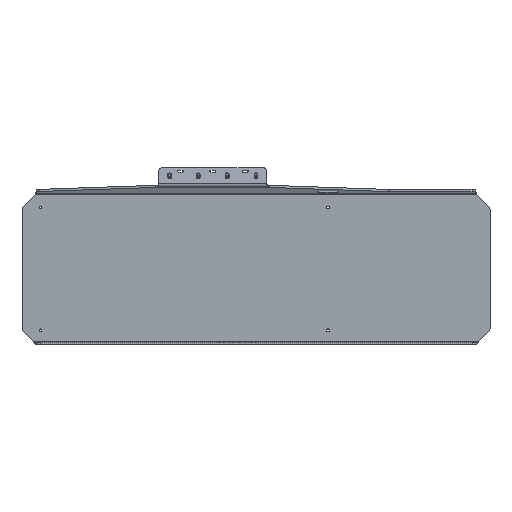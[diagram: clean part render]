
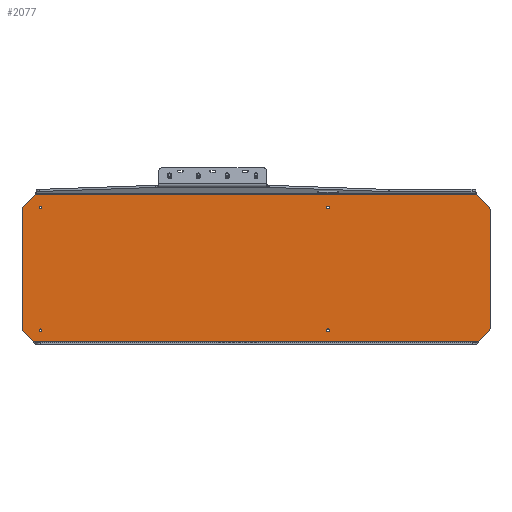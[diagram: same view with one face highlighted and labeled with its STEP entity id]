
A CAD part, top view. The second image highlights one B-rep face of the part: STEP entity #2077.
In plain terms, the highlighted planar face has unit normal (0, 0, 1).
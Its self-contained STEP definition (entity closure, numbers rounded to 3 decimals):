
#88=FACE_BOUND('',#344,.T.);
#89=FACE_BOUND('',#345,.T.);
#90=FACE_BOUND('',#346,.T.);
#91=FACE_BOUND('',#347,.T.);
#122=PLANE('',#2320);
#212=FACE_OUTER_BOUND('',#343,.T.);
#343=EDGE_LOOP('',(#1734,#1735,#1736,#1737,#1738,#1739,#1740,#1741,#1742,
#1743,#1744,#1745));
#344=EDGE_LOOP('',(#1746,#1747));
#345=EDGE_LOOP('',(#1748,#1749));
#346=EDGE_LOOP('',(#1750,#1751));
#347=EDGE_LOOP('',(#1752,#1753));
#520=LINE('',#3485,#704);
#525=LINE('',#3499,#709);
#526=LINE('',#3501,#710);
#527=LINE('',#3502,#711);
#528=LINE('',#3504,#712);
#529=LINE('',#3508,#713);
#530=LINE('',#3510,#714);
#531=LINE('',#3511,#715);
#704=VECTOR('',#2789,10.);
#709=VECTOR('',#2804,10.);
#710=VECTOR('',#2805,10.);
#711=VECTOR('',#2806,10.);
#712=VECTOR('',#2807,10.);
#713=VECTOR('',#2810,10.);
#714=VECTOR('',#2811,10.);
#715=VECTOR('',#2812,10.);
#764=CIRCLE('',#2182,1.9);
#765=CIRCLE('',#2183,1.9);
#767=CIRCLE('',#2186,1.9);
#768=CIRCLE('',#2187,1.9);
#770=CIRCLE('',#2190,1.9);
#771=CIRCLE('',#2191,1.9);
#773=CIRCLE('',#2194,1.9);
#774=CIRCLE('',#2195,1.9);
#834=CIRCLE('',#2309,5.);
#839=CIRCLE('',#2317,5.);
#840=CIRCLE('',#2319,5.);
#841=CIRCLE('',#2321,5.);
#863=VERTEX_POINT('',#3002);
#864=VERTEX_POINT('',#3003);
#866=VERTEX_POINT('',#3010);
#867=VERTEX_POINT('',#3011);
#869=VERTEX_POINT('',#3018);
#870=VERTEX_POINT('',#3019);
#872=VERTEX_POINT('',#3026);
#873=VERTEX_POINT('',#3027);
#993=VERTEX_POINT('',#3453);
#994=VERTEX_POINT('',#3454);
#1007=VERTEX_POINT('',#3484);
#1008=VERTEX_POINT('',#3488);
#1009=VERTEX_POINT('',#3492);
#1010=VERTEX_POINT('',#3493);
#1011=VERTEX_POINT('',#3498);
#1012=VERTEX_POINT('',#3500);
#1013=VERTEX_POINT('',#3503);
#1014=VERTEX_POINT('',#3505);
#1015=VERTEX_POINT('',#3507);
#1016=VERTEX_POINT('',#3509);
#1060=EDGE_CURVE('',#863,#864,#764,.T.);
#1061=EDGE_CURVE('',#864,#863,#765,.T.);
#1064=EDGE_CURVE('',#866,#867,#767,.T.);
#1065=EDGE_CURVE('',#867,#866,#768,.T.);
#1068=EDGE_CURVE('',#869,#870,#770,.T.);
#1069=EDGE_CURVE('',#870,#869,#771,.T.);
#1072=EDGE_CURVE('',#872,#873,#773,.T.);
#1073=EDGE_CURVE('',#873,#872,#774,.T.);
#1248=EDGE_CURVE('',#993,#994,#834,.T.);
#1263=EDGE_CURVE('',#994,#1007,#520,.T.);
#1265=EDGE_CURVE('',#1007,#1008,#839,.T.);
#1267=EDGE_CURVE('',#1009,#1010,#840,.T.);
#1270=EDGE_CURVE('',#1011,#993,#525,.T.);
#1271=EDGE_CURVE('',#1011,#1012,#526,.T.);
#1272=EDGE_CURVE('',#1010,#1012,#527,.T.);
#1273=EDGE_CURVE('',#1013,#1009,#528,.T.);
#1274=EDGE_CURVE('',#1014,#1013,#841,.T.);
#1275=EDGE_CURVE('',#1015,#1014,#529,.T.);
#1276=EDGE_CURVE('',#1015,#1016,#530,.T.);
#1277=EDGE_CURVE('',#1008,#1016,#531,.T.);
#1734=ORIENTED_EDGE('',*,*,#1248,.F.);
#1735=ORIENTED_EDGE('',*,*,#1270,.F.);
#1736=ORIENTED_EDGE('',*,*,#1271,.T.);
#1737=ORIENTED_EDGE('',*,*,#1272,.F.);
#1738=ORIENTED_EDGE('',*,*,#1267,.F.);
#1739=ORIENTED_EDGE('',*,*,#1273,.F.);
#1740=ORIENTED_EDGE('',*,*,#1274,.F.);
#1741=ORIENTED_EDGE('',*,*,#1275,.F.);
#1742=ORIENTED_EDGE('',*,*,#1276,.T.);
#1743=ORIENTED_EDGE('',*,*,#1277,.F.);
#1744=ORIENTED_EDGE('',*,*,#1265,.F.);
#1745=ORIENTED_EDGE('',*,*,#1263,.F.);
#1746=ORIENTED_EDGE('',*,*,#1060,.T.);
#1747=ORIENTED_EDGE('',*,*,#1061,.T.);
#1748=ORIENTED_EDGE('',*,*,#1064,.T.);
#1749=ORIENTED_EDGE('',*,*,#1065,.T.);
#1750=ORIENTED_EDGE('',*,*,#1068,.T.);
#1751=ORIENTED_EDGE('',*,*,#1069,.T.);
#1752=ORIENTED_EDGE('',*,*,#1072,.T.);
#1753=ORIENTED_EDGE('',*,*,#1073,.T.);
#2077=ADVANCED_FACE('',(#212,#88,#89,#90,#91),#122,.T.);
#2182=AXIS2_PLACEMENT_3D('',#3004,#2397,#2398);
#2183=AXIS2_PLACEMENT_3D('',#3005,#2399,#2400);
#2186=AXIS2_PLACEMENT_3D('',#3012,#2406,#2407);
#2187=AXIS2_PLACEMENT_3D('',#3013,#2408,#2409);
#2190=AXIS2_PLACEMENT_3D('',#3020,#2415,#2416);
#2191=AXIS2_PLACEMENT_3D('',#3021,#2417,#2418);
#2194=AXIS2_PLACEMENT_3D('',#3028,#2424,#2425);
#2195=AXIS2_PLACEMENT_3D('',#3029,#2426,#2427);
#2309=AXIS2_PLACEMENT_3D('',#3455,#2765,#2766);
#2317=AXIS2_PLACEMENT_3D('',#3489,#2793,#2794);
#2319=AXIS2_PLACEMENT_3D('',#3494,#2798,#2799);
#2320=AXIS2_PLACEMENT_3D('',#3497,#2802,#2803);
#2321=AXIS2_PLACEMENT_3D('',#3506,#2808,#2809);
#2397=DIRECTION('center_axis',(0.,0.,-1.));
#2398=DIRECTION('ref_axis',(1.,0.,0.));
#2399=DIRECTION('center_axis',(0.,0.,-1.));
#2400=DIRECTION('ref_axis',(1.,0.,0.));
#2406=DIRECTION('center_axis',(0.,0.,-1.));
#2407=DIRECTION('ref_axis',(1.,0.,0.));
#2408=DIRECTION('center_axis',(0.,0.,-1.));
#2409=DIRECTION('ref_axis',(1.,0.,0.));
#2415=DIRECTION('center_axis',(0.,0.,-1.));
#2416=DIRECTION('ref_axis',(1.,0.,0.));
#2417=DIRECTION('center_axis',(0.,0.,-1.));
#2418=DIRECTION('ref_axis',(1.,0.,0.));
#2424=DIRECTION('center_axis',(0.,0.,-1.));
#2425=DIRECTION('ref_axis',(1.,0.,0.));
#2426=DIRECTION('center_axis',(0.,0.,-1.));
#2427=DIRECTION('ref_axis',(1.,0.,0.));
#2765=DIRECTION('center_axis',(0.,0.,-1.));
#2766=DIRECTION('ref_axis',(0.924,0.383,0.));
#2789=DIRECTION('',(0.,-1.,0.));
#2793=DIRECTION('center_axis',(0.,0.,-1.));
#2794=DIRECTION('ref_axis',(0.924,-0.383,0.));
#2798=DIRECTION('center_axis',(0.,0.,-1.));
#2799=DIRECTION('ref_axis',(-0.924,0.383,0.));
#2802=DIRECTION('center_axis',(0.,0.,1.));
#2803=DIRECTION('ref_axis',(1.,0.,0.));
#2804=DIRECTION('',(0.707,-0.707,0.));
#2805=DIRECTION('',(-1.,0.,0.));
#2806=DIRECTION('',(0.707,0.707,0.));
#2807=DIRECTION('',(0.,1.,0.));
#2808=DIRECTION('center_axis',(0.,0.,-1.));
#2809=DIRECTION('ref_axis',(-0.924,-0.383,0.));
#2810=DIRECTION('',(-0.707,0.707,0.));
#2811=DIRECTION('',(1.,0.,0.));
#2812=DIRECTION('',(-0.707,-0.707,0.));
#3002=CARTESIAN_POINT('',(101.9,85.35,3.));
#3003=CARTESIAN_POINT('',(98.1,85.35,3.));
#3004=CARTESIAN_POINT('Origin',(100.,85.35,3.));
#3005=CARTESIAN_POINT('Origin',(100.,85.35,3.));
#3010=CARTESIAN_POINT('',(101.9,-85.35,3.));
#3011=CARTESIAN_POINT('',(98.1,-85.35,3.));
#3012=CARTESIAN_POINT('Origin',(100.,-85.35,3.));
#3013=CARTESIAN_POINT('Origin',(100.,-85.35,3.));
#3018=CARTESIAN_POINT('',(-297.3,85.35,3.));
#3019=CARTESIAN_POINT('',(-301.1,85.35,3.));
#3020=CARTESIAN_POINT('Origin',(-299.2,85.35,3.));
#3021=CARTESIAN_POINT('Origin',(-299.2,85.35,3.));
#3026=CARTESIAN_POINT('',(-297.3,-85.35,3.));
#3027=CARTESIAN_POINT('',(-301.1,-85.35,3.));
#3028=CARTESIAN_POINT('Origin',(-299.2,-85.35,3.));
#3029=CARTESIAN_POINT('Origin',(-299.2,-85.35,3.));
#3453=CARTESIAN_POINT('',(323.536,86.464,3.));
#3454=CARTESIAN_POINT('',(325.,82.929,3.));
#3455=CARTESIAN_POINT('Origin',(320.,82.929,3.));
#3484=CARTESIAN_POINT('',(325.,-82.929,3.));
#3485=CARTESIAN_POINT('',(325.,85.,3.));
#3488=CARTESIAN_POINT('',(323.536,-86.464,3.));
#3489=CARTESIAN_POINT('Origin',(320.,-82.929,3.));
#3492=CARTESIAN_POINT('',(-325.,82.929,3.));
#3493=CARTESIAN_POINT('',(-323.536,86.464,3.));
#3494=CARTESIAN_POINT('Origin',(-320.,82.929,3.));
#3497=CARTESIAN_POINT('Origin',(0.,0.,3.));
#3498=CARTESIAN_POINT('',(306.343,103.657,3.));
#3499=CARTESIAN_POINT('',(305.,105.,3.));
#3500=CARTESIAN_POINT('',(-306.343,103.657,3.));
#3501=CARTESIAN_POINT('',(-153.171,103.657,3.));
#3502=CARTESIAN_POINT('',(-325.,85.,3.));
#3503=CARTESIAN_POINT('',(-325.,-82.929,3.));
#3504=CARTESIAN_POINT('',(-325.,-85.,3.));
#3505=CARTESIAN_POINT('',(-323.536,-86.464,3.));
#3506=CARTESIAN_POINT('Origin',(-320.,-82.929,3.));
#3507=CARTESIAN_POINT('',(-309.6,-100.4,3.));
#3508=CARTESIAN_POINT('',(-305.,-105.,3.));
#3509=CARTESIAN_POINT('',(309.6,-100.4,3.));
#3510=CARTESIAN_POINT('',(154.8,-100.4,3.));
#3511=CARTESIAN_POINT('',(325.,-85.,3.));
